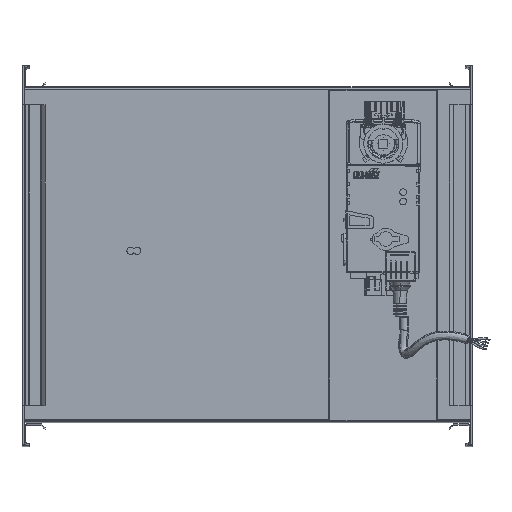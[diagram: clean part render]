
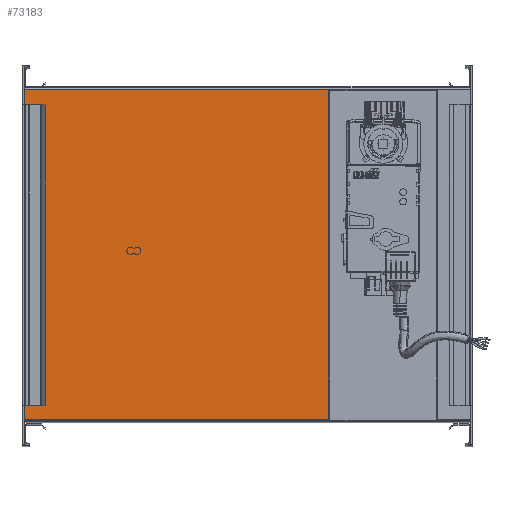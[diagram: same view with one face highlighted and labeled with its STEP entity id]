
A CAD part, top view. The second image highlights one B-rep face of the part: STEP entity #73183.
In plain terms, the highlighted planar face has unit normal (0, 0, 1).
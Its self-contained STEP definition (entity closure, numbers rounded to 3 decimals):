
#1965 = FACE_OUTER_BOUND ( 'NONE', #24138, .T. ) ;
#2719 = LINE ( 'NONE', #80130, #11399 ) ;
#11399 = VECTOR ( 'NONE', #44719, 1000. ) ;
#13087 = CARTESIAN_POINT ( 'NONE',  ( -244.423, 162.152, 1500. ) ) ;
#14398 = EDGE_CURVE ( 'NONE', #22267, #18772, #2719, .T. ) ;
#16955 = CARTESIAN_POINT ( 'NONE',  ( -244.423, 162.152, 1500. ) ) ;
#18090 = VERTEX_POINT ( 'NONE', #90491 ) ;
#18772 = VERTEX_POINT ( 'NONE', #65257 ) ;
#20822 = CARTESIAN_POINT ( 'NONE',  ( 28.632, -133.848, 1500. ) ) ;
#21078 = ORIENTED_EDGE ( 'NONE', *, *, #45867, .T. ) ;
#21441 = LINE ( 'NONE', #23296, #32175 ) ;
#22110 = VECTOR ( 'NONE', #22876, 1000. ) ;
#22267 = VERTEX_POINT ( 'NONE', #13087 ) ;
#22876 = DIRECTION ( 'NONE',  ( 0., -1., 0. ) ) ;
#23296 = CARTESIAN_POINT ( 'NONE',  ( -244.423, -133.848, 1500. ) ) ;
#23865 = DIRECTION ( 'NONE',  ( 0., 0., 1. ) ) ;
#24138 = EDGE_LOOP ( 'NONE', ( #21078, #26800, #25886, #61639 ) ) ;
#25886 = ORIENTED_EDGE ( 'NONE', *, *, #56400, .F. ) ;
#26800 = ORIENTED_EDGE ( 'NONE', *, *, #65498, .F. ) ;
#28762 = AXIS2_PLACEMENT_3D ( 'NONE', #58392, #23865, #44889 ) ;
#32175 = VECTOR ( 'NONE', #65308, 1000. ) ;
#37367 = CARTESIAN_POINT ( 'NONE',  ( 28.632, -135.848, 1500. ) ) ;
#44719 = DIRECTION ( 'NONE',  ( 0., -1., 0. ) ) ;
#44889 = DIRECTION ( 'NONE',  ( 0., -1., 0. ) ) ;
#45867 = EDGE_CURVE ( 'NONE', #18772, #52757, #21441, .T. ) ;
#52444 = DIRECTION ( 'NONE',  ( 1., 0., 0. ) ) ;
#52757 = VERTEX_POINT ( 'NONE', #20822 ) ;
#56400 = EDGE_CURVE ( 'NONE', #22267, #18090, #74821, .T. ) ;
#58392 = CARTESIAN_POINT ( 'NONE',  ( -244.423, -133.848, 1500. ) ) ;
#59780 = PLANE ( 'NONE',  #28762 ) ;
#61639 = ORIENTED_EDGE ( 'NONE', *, *, #14398, .T. ) ;
#65257 = CARTESIAN_POINT ( 'NONE',  ( -244.423, -133.848, 1500. ) ) ;
#65308 = DIRECTION ( 'NONE',  ( 1., 0., 0. ) ) ;
#65498 = EDGE_CURVE ( 'NONE', #18090, #52757, #73733, .T. ) ;
#73183 = ADVANCED_FACE ( 'NONE', ( #1965 ), #59780, .T. ) ;
#73733 = LINE ( 'NONE', #37367, #22110 ) ;
#74821 = LINE ( 'NONE', #16955, #81028 ) ;
#80130 = CARTESIAN_POINT ( 'NONE',  ( -244.423, -133.848, 1500. ) ) ;
#81028 = VECTOR ( 'NONE', #52444, 1000. ) ;
#90491 = CARTESIAN_POINT ( 'NONE',  ( 28.632, 162.152, 1500. ) ) ;
